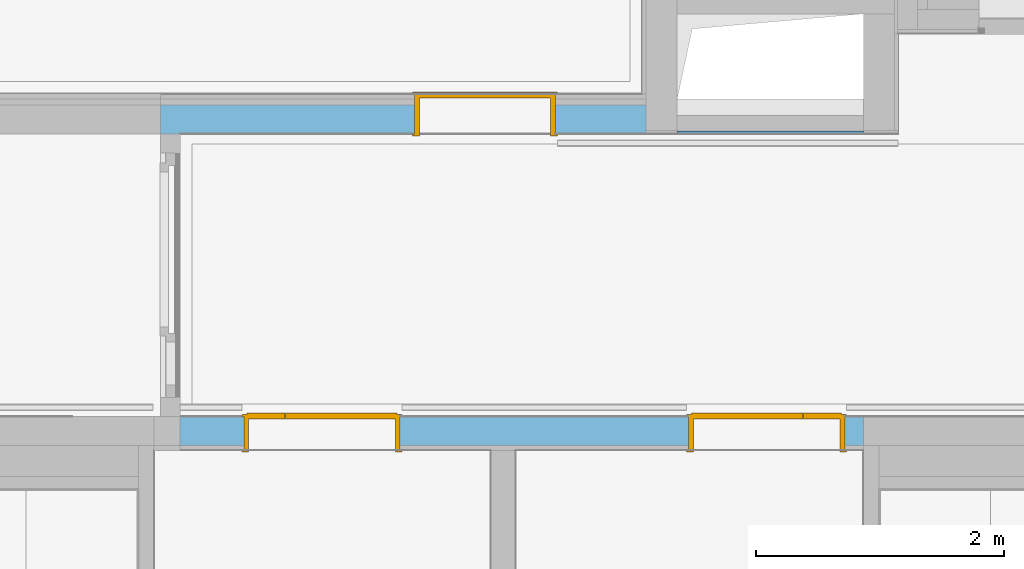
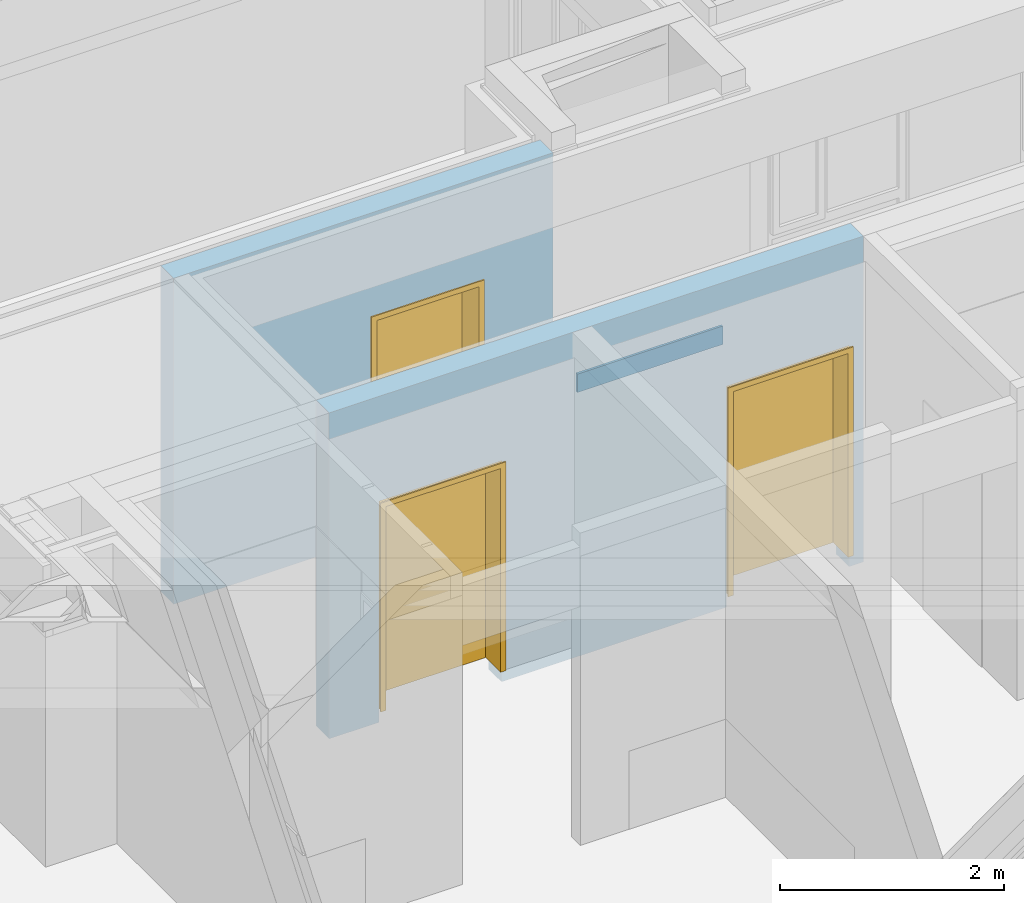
# One storey, part 115 of 222: 3 doors, 1 wall, 3 openings, plus 2 elements that do not belong to this part.
"""IFC4 building model written with IfcOpenShell, lengths in metres."""

from ifc_helpers import new_model, entity, si_unit, converted_unit, derived_unit, frame, frame_2d, origin, origin_with_axes, place, context, subcontext, project, spatial, polyline, rectangle, outline, extrude, faceted_brep, source, transform, mapped, material, type_object, element, fill, save


model = new_model("IFC4")

# Units and contexts
model_context = context("Model", 3, precision=1e-05, world=origin())
body_context = subcontext(model_context, "Body", "Model", "MODEL_VIEW")
ifc_project = project(units=[si_unit("LENGTHUNIT", "METRE"), si_unit("AREAUNIT", "SQUARE_METRE"), si_unit("VOLUMEUNIT", "CUBIC_METRE"), si_unit("MASSUNIT", "GRAM", prefix="KILO"), converted_unit("PLANEANGLEUNIT", "DEGREE", entity("IfcPlaneAngleMeasure", 0.0174532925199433), si_unit("PLANEANGLEUNIT", "RADIAN"), dimensions=[0, 0, 0, 0, 0, 0, 0]), derived_unit("THERMALTRANSMITTANCEUNIT", [(si_unit("POWERUNIT", "WATT"), 1), (si_unit("THERMODYNAMICTEMPERATUREUNIT", "KELVIN"), -1), (si_unit("LENGTHUNIT", "METRE"), -2)]), derived_unit("VOLUMETRICFLOWRATEUNIT", [(si_unit("LENGTHUNIT", "METRE"), 3), (converted_unit("TIMEUNIT", "hour", entity("IfcTimeMeasure", 3600.0), si_unit("TIMEUNIT", "SECOND"), dimensions=[0, 0, 1, 0, 0, 0, 0]), -1), (si_unit("LENGTHUNIT", "METRE"), -1)])], contexts=[model_context])

# Site, building, storey
site_placement = place(None, origin())
site = spatial("IfcSite", under=ifc_project, at=site_placement, Name="Psychiatrie Neubau Wunstorf", CompositionType="ELEMENT")
building_placement = place(site_placement, origin())
building = spatial("IfcBuilding", under=site, at=building_placement, Name="Neubau H2 Stationsgebäude", CompositionType="ELEMENT")
storey_placement = place(building_placement, frame((0.0, 0.0, 3.6)))
storey = spatial("IfcBuildingStorey", under=building, at=storey_placement, Name="H2 Ebene +1", CompositionType="ELEMENT", Elevation=3.6)

# Wall, opening, door
ifc_material_1 = material(Name="WI-HW 60")
wall_1_placement = place(storey_placement, frame((73.2399999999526, 7.60750000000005, 0.0), z_axis=(0.0, 0.0, 1.0), x_axis=(1.0, -2.32607340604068e-16, 0.0)))
wall_1 = element("IfcWall", 1, at=wall_1_placement, inside=storey, material=ifc_material_1, context=body_context, shape_type="SweptSolid", body=[
    extrude(rectangle(XDim=3.91000000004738, YDim=0.232, at=frame_2d((1.95500000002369, 0.116), x_axis=(1.0, 0.0))), origin_with_axes(), (0.0, 0.0, 1.0), 3.55),
])
opening_1_placement = place(wall_1_placement, frame((3.18000000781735, 0.231999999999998, 0.0), z_axis=(0.0, -1.0, 0.0), x_axis=(0.0, 0.0, 1.0)))
opening_1 = element("IfcOpeningElement", 2, at=opening_1_placement, cuts=wall_1, Name="Türöffnung", ObjectType="Opening", context=body_context, shape_type="SweptSolid", body=[
    extrude(outline(polyline([(2.41, 1.135), (2.41, 0.0), (0.0, 0.0), (0.0, 1.135), (2.41, 1.135)])), origin_with_axes(), (0.0, 0.0, 1.0), 0.232),
])
ifc_material_2 = material(Name="TI-1F-UZ-D")
door_type_1 = type_object("IfcDoorType", Name="SMT", OperationType="SINGLE_SWING_RIGHT", ParameterTakesPrecedence=False, PredefinedType="DOOR")
shared_shape_1 = source(origin_with_axes(), body_context, "Body", "Brep", [
    faceted_brep([(1.135, -0.015, 2.41), (1.135, -0.015, 0.15), (1.095, -0.015, 0.15), (1.095, -0.015, 2.41), (1.135, 0.337, 0.15), (1.135, 0.337, 2.41), (1.095, 0.337, 2.41), (1.095, 0.337, 0.15)], [[[0, 1, 2, 3]], [[4, 5, 6, 7]], [[1, 0, 5, 4]], [[2, 1, 4, 7]], [[3, 2, 7, 6]], [[0, 3, 6, 5]]], orient=[[False], [False], [False], [False], [False], [False]]),
    faceted_brep([(1.135, -0.015, 2.425), (1.15, -0.015, 2.425), (1.15, -0.015, 0.15), (1.135, -0.015, 0.15), (1.135, 0.0, 0.15), (1.15, 0.0, 0.15), (1.15, 0.0, 2.425), (1.135, 0.0, 2.425)], [[[0, 1, 2, 3]], [[4, 5, 6, 7]], [[3, 4, 7, 0]], [[2, 5, 4, 3]], [[1, 6, 5, 2]], [[0, 7, 6, 1]]], orient=[[False], [False], [False], [False], [False], [False]]),
    faceted_brep([(1.135, 0.322, 2.425), (1.15, 0.322, 2.425), (1.15, 0.322, 0.15), (1.135, 0.322, 0.15), (1.135, 0.337, 0.15), (1.15, 0.337, 0.15), (1.15, 0.337, 2.425), (1.135, 0.337, 2.425)], [[[0, 1, 2, 3]], [[4, 5, 6, 7]], [[3, 4, 7, 0]], [[2, 5, 4, 3]], [[1, 6, 5, 2]], [[0, 7, 6, 1]]], orient=[[False], [False], [False], [False], [False], [False]]),
    faceted_brep([(0.04, -0.015, 2.41), (0.04, -0.015, 0.15), (0.0, -0.015, 0.15), (0.0, -0.015, 2.41), (0.04, 0.337, 0.15), (0.04, 0.337, 2.41), (0.0, 0.337, 2.41), (0.0, 0.337, 0.15)], [[[0, 1, 2, 3]], [[4, 5, 6, 7]], [[1, 0, 5, 4]], [[2, 1, 4, 7]], [[3, 2, 7, 6]], [[0, 3, 6, 5]]], orient=[[False], [False], [False], [False], [False], [False]]),
    faceted_brep([(0.0, -0.015, 2.425), (0.0, -0.015, 0.15), (-0.015, -0.015, 0.15), (-0.015, -0.015, 2.425), (0.0, 0.0, 0.15), (0.0, 0.0, 2.425), (-0.015, 0.0, 2.425), (-0.015, 0.0, 0.15)], [[[0, 1, 2, 3]], [[4, 5, 6, 7]], [[1, 0, 5, 4]], [[2, 1, 4, 7]], [[3, 2, 7, 6]], [[0, 3, 6, 5]]], orient=[[False], [False], [False], [False], [False], [False]]),
    faceted_brep([(0.0, 0.322, 2.425), (0.0, 0.322, 0.15), (-0.015, 0.322, 0.15), (-0.015, 0.322, 2.425), (0.0, 0.337, 0.15), (0.0, 0.337, 2.425), (-0.015, 0.337, 2.425), (-0.015, 0.337, 0.15)], [[[0, 1, 2, 3]], [[4, 5, 6, 7]], [[1, 0, 5, 4]], [[2, 1, 4, 7]], [[3, 2, 7, 6]], [[0, 3, 6, 5]]], orient=[[False], [False], [False], [False], [False], [False]]),
    faceted_brep([(1.095, -0.015, 2.41), (1.095, -0.015, 2.37), (0.04, -0.015, 2.37), (0.04, -0.015, 2.41), (1.095, 0.337, 2.37), (1.095, 0.337, 2.41), (0.04, 0.337, 2.41), (0.04, 0.337, 2.37)], [[[0, 1, 2, 3]], [[4, 5, 6, 7]], [[1, 0, 5, 4]], [[2, 1, 4, 7]], [[3, 2, 7, 6]], [[0, 3, 6, 5]]], orient=[[False], [False], [False], [False], [False], [False]]),
    faceted_brep([(1.135, -0.015, 2.425), (1.135, -0.015, 2.41), (0.0, -0.015, 2.41), (0.0, -0.015, 2.425), (1.135, 0.0, 2.41), (1.135, 0.0, 2.425), (0.0, 0.0, 2.425), (0.0, 0.0, 2.41)], [[[0, 1, 2, 3]], [[4, 5, 6, 7]], [[1, 0, 5, 4]], [[2, 1, 4, 7]], [[3, 2, 7, 6]], [[0, 3, 6, 5]]], orient=[[False], [False], [False], [False], [False], [False]]),
    faceted_brep([(1.135, 0.322, 2.425), (1.135, 0.322, 2.41), (0.0, 0.322, 2.41), (0.0, 0.322, 2.425), (1.135, 0.337, 2.41), (1.135, 0.337, 2.425), (0.0, 0.337, 2.425), (0.0, 0.337, 2.41)], [[[0, 1, 2, 3]], [[4, 5, 6, 7]], [[1, 0, 5, 4]], [[2, 1, 4, 7]], [[3, 2, 7, 6]], [[0, 3, 6, 5]]], orient=[[False], [False], [False], [False], [False], [False]]),
    faceted_brep([(1.11, 0.288, 2.385), (1.11, 0.288, 0.15), (0.025, 0.288, 0.15), (0.025, 0.288, 2.385), (1.11, 0.338, 0.15), (1.11, 0.338, 2.385), (0.025, 0.338, 2.385), (0.025, 0.338, 0.15)], [[[0, 1, 2, 3]], [[4, 5, 6, 7]], [[1, 0, 5, 4]], [[2, 1, 4, 7]], [[3, 2, 7, 6]], [[0, 3, 6, 5]]], orient=[[False], [False], [False], [False], [False], [False]]),
])
door_1_placement = place(opening_1_placement, frame((0.0, 1.135, 0.232000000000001), z_axis=(1.0, 0.0, 0.0), x_axis=(0.0, -1.0, -2.32607340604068e-16)))
door_1 = element("IfcDoor", 3, at=door_1_placement, inside=storey, type_object=door_type_1, material=ifc_material_2, Name="SMT", OverallHeight=2.41, OverallWidth=1.135, context=body_context, shape_type="MappedRepresentation", body=[
    mapped(shared_shape_1, transform((0.0, 0.0, 0.0), x_axis=(1.0, 0.0, 0.0), y_axis=(0.0, 1.0, 0.0), z_axis=(0.0, 0.0, 1.0), scale=1.0)),
])
fill(opening_1, door_1)

# Wall, openings, doors
ifc_material_3 = material(Name="WI-HW 60")
wall_2_placement = place(storey_placement, frame((78.9, 5.33250000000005, 0.0), z_axis=(0.0, 0.0, 1.0), x_axis=(-1.0, 0.0, 0.0)))
wall_2 = element("IfcWall", 4, at=wall_2_placement, inside=storey, material=ifc_material_3, context=body_context, shape_type="SweptSolid", body=[
    extrude(rectangle(XDim=5.50500000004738, YDim=0.232, at=frame_2d((2.75250000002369, 0.116), x_axis=(1.0, 0.0))), origin_with_axes(), (0.0, 0.0, 1.0), 3.55),
])
opening_2_placement = place(wall_2_placement, frame((0.15, 0.0, 0.0), z_axis=(0.0, 1.0, 0.0), x_axis=(0.0, 0.0, 1.0)))
opening_2 = element("IfcOpeningElement", 5, at=opening_2_placement, cuts=wall_2, Name="Türöffnung", ObjectType="Opening", context=body_context, shape_type="SweptSolid", body=[
    extrude(outline(polyline([(2.41, 1.26), (2.41, 0.0), (0.0, 0.0), (0.0, 1.26), (2.41, 1.26)])), origin_with_axes(), (0.0, 0.0, 1.0), 0.232),
])
opening_3_placement = place(wall_2_placement, frame((3.73, 0.0, 0.0), z_axis=(0.0, 1.0, 0.0), x_axis=(0.0, 0.0, 1.0)))
opening_3 = element("IfcOpeningElement", 6, at=opening_3_placement, cuts=wall_2, Name="Türöffnung", ObjectType="Opening", context=body_context, shape_type="SweptSolid", body=[
    extrude(outline(polyline([(2.41, 1.26), (2.41, 0.0), (0.0, 0.0), (0.0, 1.26), (2.41, 1.26)])), origin_with_axes(), (0.0, 0.0, 1.0), 0.232),
])
ifc_material_4 = material(Name="TI-2F-UZ-D")
door_type_2 = type_object("IfcDoorType", Name="SMT", OperationType="DOUBLE_DOOR_SINGLE_SWING", ParameterTakesPrecedence=False, PredefinedType="DOOR")
shared_shape_2 = source(origin_with_axes(), body_context, "Body", "Brep", [
    faceted_brep([(0.0, -0.0150000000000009, 2.41), (0.04, -0.0150000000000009, 2.41), (0.04, -0.0150000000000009, 0.15), (0.0, -0.0150000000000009, 0.15), (0.0, 0.287000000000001, 0.15), (0.04, 0.287000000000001, 0.15), (0.04, 0.287000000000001, 2.41), (0.0, 0.287000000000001, 2.41)], [[[0, 1, 2, 3]], [[4, 5, 6, 7]], [[3, 4, 7, 0]], [[2, 5, 4, 3]], [[1, 6, 5, 2]], [[0, 7, 6, 1]]], orient=[[False], [False], [False], [False], [False], [False]]),
    faceted_brep([(0.0, -0.0150000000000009, 2.425), (0.0, -0.0150000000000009, 0.15), (-0.015, -0.0150000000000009, 0.15), (-0.015, -0.0150000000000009, 2.425), (0.0, 0.0, 0.15), (0.0, 0.0, 2.425), (-0.015, 0.0, 2.425), (-0.015, 0.0, 0.15)], [[[0, 1, 2, 3]], [[4, 5, 6, 7]], [[1, 0, 5, 4]], [[2, 1, 4, 7]], [[3, 2, 7, 6]], [[0, 3, 6, 5]]], orient=[[False], [False], [False], [False], [False], [False]]),
    faceted_brep([(0.0, 0.272000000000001, 2.425), (0.0, 0.272000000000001, 0.15), (-0.015, 0.272000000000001, 0.15), (-0.015, 0.272000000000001, 2.425), (0.0, 0.287000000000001, 0.15), (0.0, 0.287000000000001, 2.425), (-0.015, 0.287000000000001, 2.425), (-0.015, 0.287000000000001, 0.15)], [[[0, 1, 2, 3]], [[4, 5, 6, 7]], [[1, 0, 5, 4]], [[2, 1, 4, 7]], [[3, 2, 7, 6]], [[0, 3, 6, 5]]], orient=[[False], [False], [False], [False], [False], [False]]),
    faceted_brep([(1.22, -0.0150000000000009, 2.41), (1.26, -0.0150000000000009, 2.41), (1.26, -0.0150000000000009, 0.15), (1.22, -0.0150000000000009, 0.15), (1.22, 0.287000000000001, 0.15), (1.26, 0.287000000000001, 0.15), (1.26, 0.287000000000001, 2.41), (1.22, 0.287000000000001, 2.41)], [[[0, 1, 2, 3]], [[4, 5, 6, 7]], [[3, 4, 7, 0]], [[2, 5, 4, 3]], [[1, 6, 5, 2]], [[0, 7, 6, 1]]], orient=[[False], [False], [False], [False], [False], [False]]),
    faceted_brep([(1.26, -0.0150000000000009, 2.425), (1.275, -0.0150000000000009, 2.425), (1.275, -0.0150000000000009, 0.15), (1.26, -0.0150000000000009, 0.15), (1.26, 0.0, 0.15), (1.275, 0.0, 0.15), (1.275, 0.0, 2.425), (1.26, 0.0, 2.425)], [[[0, 1, 2, 3]], [[4, 5, 6, 7]], [[3, 4, 7, 0]], [[2, 5, 4, 3]], [[1, 6, 5, 2]], [[0, 7, 6, 1]]], orient=[[False], [False], [False], [False], [False], [False]]),
    faceted_brep([(1.26, 0.272, 2.425), (1.275, 0.272, 2.425), (1.275, 0.272000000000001, 0.15), (1.26, 0.272000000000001, 0.15), (1.26, 0.287000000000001, 0.15), (1.275, 0.287000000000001, 0.15), (1.275, 0.287000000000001, 2.425), (1.26, 0.287000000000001, 2.425)], [[[0, 1, 2, 3]], [[4, 5, 6, 7]], [[3, 4, 7, 0]], [[2, 5, 4, 3]], [[1, 6, 5, 2]], [[0, 7, 6, 1]]], orient=[[False], [False], [False], [False], [False], [False]]),
    faceted_brep([(0.04, -0.0150000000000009, 2.41), (1.22, -0.0150000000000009, 2.41), (1.22, -0.0150000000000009, 2.37), (0.04, -0.0150000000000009, 2.37), (0.04, 0.287000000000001, 2.37), (1.22, 0.287000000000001, 2.37), (1.22, 0.287000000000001, 2.41), (0.04, 0.287000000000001, 2.41)], [[[0, 1, 2, 3]], [[4, 5, 6, 7]], [[3, 4, 7, 0]], [[2, 5, 4, 3]], [[1, 6, 5, 2]], [[0, 7, 6, 1]]], orient=[[False], [False], [False], [False], [False], [False]]),
    faceted_brep([(0.0, -0.0150000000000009, 2.425), (1.26, -0.0150000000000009, 2.425), (1.26, -0.0150000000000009, 2.41), (0.0, -0.0150000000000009, 2.41), (0.0, 0.0, 2.41), (1.26, 0.0, 2.41), (1.26, 0.0, 2.425), (0.0, 0.0, 2.425)], [[[0, 1, 2, 3]], [[4, 5, 6, 7]], [[3, 4, 7, 0]], [[2, 5, 4, 3]], [[1, 6, 5, 2]], [[0, 7, 6, 1]]], orient=[[False], [False], [False], [False], [False], [False]]),
    faceted_brep([(0.0, 0.272000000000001, 2.425), (1.26, 0.272, 2.425), (1.26, 0.272, 2.41), (0.0, 0.272000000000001, 2.41), (0.0, 0.287000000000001, 2.41), (1.26, 0.287000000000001, 2.41), (1.26, 0.287000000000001, 2.425), (0.0, 0.287000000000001, 2.425)], [[[0, 1, 2, 3]], [[4, 5, 6, 7]], [[3, 4, 7, 0]], [[2, 5, 4, 3]], [[1, 6, 5, 2]], [[0, 7, 6, 1]]], orient=[[False], [False], [False], [False], [False], [False]]),
    faceted_brep([(0.025, 0.252000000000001, 2.385), (0.925, 0.252, 2.385), (0.925, 0.252000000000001, 0.15), (0.025, 0.252000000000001, 0.15), (0.025, 0.302000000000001, 0.15), (0.925, 0.302000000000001, 0.15), (0.925, 0.302000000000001, 2.385), (0.025, 0.302000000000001, 2.385)], [[[0, 1, 2, 3]], [[4, 5, 6, 7]], [[3, 4, 7, 0]], [[2, 5, 4, 3]], [[1, 6, 5, 2]], [[0, 7, 6, 1]]], orient=[[False], [False], [False], [False], [False], [False]]),
    faceted_brep([(0.926, 0.252, 2.385), (1.235, 0.252, 2.385), (1.235, 0.252000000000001, 0.15), (0.926, 0.252000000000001, 0.15), (0.926, 0.302000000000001, 0.15), (1.235, 0.302000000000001, 0.15), (1.235, 0.302000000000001, 2.385), (0.926, 0.302000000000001, 2.385)], [[[0, 1, 2, 3]], [[4, 5, 6, 7]], [[3, 4, 7, 0]], [[2, 5, 4, 3]], [[1, 6, 5, 2]], [[0, 7, 6, 1]]], orient=[[False], [False], [False], [False], [False], [False]]),
])
door_2_placement = place(opening_2_placement, frame((0.0, 1.26, 0.272), z_axis=(1.0, 0.0, 0.0), x_axis=(0.0, -1.0, 0.0)))
door_2 = element("IfcDoor", 7, at=door_2_placement, inside=storey, type_object=door_type_2, material=ifc_material_4, Name="SMT", OverallHeight=2.41, OverallWidth=1.26, context=body_context, shape_type="MappedRepresentation", body=[
    mapped(shared_shape_2, transform((0.0, 0.0, 0.0), x_axis=(1.0, 0.0, 0.0), y_axis=(0.0, 1.0, 0.0), z_axis=(0.0, 0.0, 1.0), scale=1.0)),
])
fill(opening_2, door_2)
ifc_material_5 = material(Name="TI-2F-UZ-D")
door_type_3 = type_object("IfcDoorType", Name="SMT", OperationType="DOUBLE_DOOR_SINGLE_SWING", ParameterTakesPrecedence=False, PredefinedType="DOOR")
shared_shape_3 = source(origin_with_axes(), body_context, "Body", "Brep", [
    faceted_brep([(1.26, -0.015, 2.41), (1.26, -0.015, 0.15), (1.22, -0.015, 0.15), (1.22, -0.015, 2.41), (1.26, 0.287, 0.15), (1.26, 0.287, 2.41), (1.22, 0.287, 2.41), (1.22, 0.287, 0.15)], [[[0, 1, 2, 3]], [[4, 5, 6, 7]], [[1, 0, 5, 4]], [[2, 1, 4, 7]], [[3, 2, 7, 6]], [[0, 3, 6, 5]]], orient=[[False], [False], [False], [False], [False], [False]]),
    faceted_brep([(1.26, -0.015, 2.425), (1.275, -0.015, 2.425), (1.275, -0.015, 0.15), (1.26, -0.015, 0.15), (1.26, 0.0, 0.15), (1.275, 0.0, 0.15), (1.275, 0.0, 2.425), (1.26, 0.0, 2.425)], [[[0, 1, 2, 3]], [[4, 5, 6, 7]], [[3, 4, 7, 0]], [[2, 5, 4, 3]], [[1, 6, 5, 2]], [[0, 7, 6, 1]]], orient=[[False], [False], [False], [False], [False], [False]]),
    faceted_brep([(1.26, 0.272, 2.425), (1.275, 0.272, 2.425), (1.275, 0.272, 0.15), (1.26, 0.272, 0.15), (1.26, 0.287, 0.15), (1.275, 0.287, 0.15), (1.275, 0.287, 2.425), (1.26, 0.287, 2.425)], [[[0, 1, 2, 3]], [[4, 5, 6, 7]], [[3, 4, 7, 0]], [[2, 5, 4, 3]], [[1, 6, 5, 2]], [[0, 7, 6, 1]]], orient=[[False], [False], [False], [False], [False], [False]]),
    faceted_brep([(0.04, -0.015, 2.41), (0.04, -0.015, 0.15), (0.0, -0.015, 0.15), (0.0, -0.015, 2.41), (0.04, 0.287, 0.15), (0.04, 0.287, 2.41), (0.0, 0.287, 2.41), (0.0, 0.287, 0.15)], [[[0, 1, 2, 3]], [[4, 5, 6, 7]], [[1, 0, 5, 4]], [[2, 1, 4, 7]], [[3, 2, 7, 6]], [[0, 3, 6, 5]]], orient=[[False], [False], [False], [False], [False], [False]]),
    faceted_brep([(0.0, -0.015, 2.425), (0.0, -0.015, 0.15), (-0.015, -0.015, 0.15), (-0.015, -0.015, 2.425), (0.0, 0.0, 0.15), (0.0, 0.0, 2.425), (-0.015, 0.0, 2.425), (-0.015, 0.0, 0.15)], [[[0, 1, 2, 3]], [[4, 5, 6, 7]], [[1, 0, 5, 4]], [[2, 1, 4, 7]], [[3, 2, 7, 6]], [[0, 3, 6, 5]]], orient=[[False], [False], [False], [False], [False], [False]]),
    faceted_brep([(0.0, 0.272, 2.425), (0.0, 0.272, 0.15), (-0.015, 0.272, 0.15), (-0.015, 0.272, 2.425), (0.0, 0.287, 0.15), (0.0, 0.287, 2.425), (-0.015, 0.287, 2.425), (-0.015, 0.287, 0.15)], [[[0, 1, 2, 3]], [[4, 5, 6, 7]], [[1, 0, 5, 4]], [[2, 1, 4, 7]], [[3, 2, 7, 6]], [[0, 3, 6, 5]]], orient=[[False], [False], [False], [False], [False], [False]]),
    faceted_brep([(1.22, -0.015, 2.41), (1.22, -0.015, 2.37), (0.04, -0.015, 2.37), (0.04, -0.015, 2.41), (1.22, 0.287, 2.37), (1.22, 0.287, 2.41), (0.04, 0.287, 2.41), (0.04, 0.287, 2.37)], [[[0, 1, 2, 3]], [[4, 5, 6, 7]], [[1, 0, 5, 4]], [[2, 1, 4, 7]], [[3, 2, 7, 6]], [[0, 3, 6, 5]]], orient=[[False], [False], [False], [False], [False], [False]]),
    faceted_brep([(1.26, -0.015, 2.425), (1.26, -0.015, 2.41), (0.0, -0.015, 2.41), (0.0, -0.015, 2.425), (1.26, 0.0, 2.41), (1.26, 0.0, 2.425), (0.0, 0.0, 2.425), (0.0, 0.0, 2.41)], [[[0, 1, 2, 3]], [[4, 5, 6, 7]], [[1, 0, 5, 4]], [[2, 1, 4, 7]], [[3, 2, 7, 6]], [[0, 3, 6, 5]]], orient=[[False], [False], [False], [False], [False], [False]]),
    faceted_brep([(1.26, 0.272, 2.425), (1.26, 0.272, 2.41), (0.0, 0.272, 2.41), (0.0, 0.272, 2.425), (1.26, 0.287, 2.41), (1.26, 0.287, 2.425), (0.0, 0.287, 2.425), (0.0, 0.287, 2.41)], [[[0, 1, 2, 3]], [[4, 5, 6, 7]], [[1, 0, 5, 4]], [[2, 1, 4, 7]], [[3, 2, 7, 6]], [[0, 3, 6, 5]]], orient=[[False], [False], [False], [False], [False], [False]]),
    faceted_brep([(1.235, 0.252, 2.385), (1.235, 0.252, 0.15), (0.335, 0.252, 0.15), (0.335, 0.252, 2.385), (1.235, 0.302, 0.15), (1.235, 0.302, 2.385), (0.335, 0.302, 2.385), (0.335, 0.302, 0.15)], [[[0, 1, 2, 3]], [[4, 5, 6, 7]], [[1, 0, 5, 4]], [[2, 1, 4, 7]], [[3, 2, 7, 6]], [[0, 3, 6, 5]]], orient=[[False], [False], [False], [False], [False], [False]]),
    faceted_brep([(0.334, 0.252, 2.385), (0.334, 0.252, 0.15), (0.025, 0.252, 0.15), (0.025, 0.252, 2.385), (0.334, 0.302, 0.15), (0.334, 0.302, 2.385), (0.025, 0.302, 2.385), (0.025, 0.302, 0.15)], [[[0, 1, 2, 3]], [[4, 5, 6, 7]], [[1, 0, 5, 4]], [[2, 1, 4, 7]], [[3, 2, 7, 6]], [[0, 3, 6, 5]]], orient=[[False], [False], [False], [False], [False], [False]]),
])
door_3_placement = place(opening_3_placement, frame((0.0, 1.26, 0.272), z_axis=(1.0, 0.0, 0.0), x_axis=(0.0, -1.0, 0.0)))
door_3 = element("IfcDoor", 8, at=door_3_placement, inside=storey, type_object=door_type_3, material=ifc_material_5, Name="SMT", OverallHeight=2.41, OverallWidth=1.26, context=body_context, shape_type="MappedRepresentation", body=[
    mapped(shared_shape_3, transform((0.0, 0.0, 0.0), x_axis=(1.0, 0.0, 0.0), y_axis=(0.0, 1.0, 0.0), z_axis=(0.0, 0.0, 1.0), scale=1.0)),
])
fill(opening_3, door_3)

# Wall
wall_3_placement = place(storey_placement, frame((77.4, 7.60750000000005, 0.85)))
element("IfcWall", 9, at=wall_3_placement, inside=storey, Name="WV 1.1", context=body_context, shape_type="Brep", body=[
    faceted_brep([(0.0, 0.025, 0.0), (0.0, 0.0, 0.0), (1.5, 0.0, 0.0), (1.5, 0.025, 0.0), (0.0, 0.0, 0.2), (0.0, 0.025, 0.2), (1.5, 0.025, 0.2), (1.5, 0.0, 0.2)], [[[0, 1, 2, 3]], [[4, 5, 6, 7]], [[1, 0, 5, 4]], [[2, 1, 4, 7]], [[3, 2, 7, 6]], [[0, 3, 6, 5]]], orient=[[False], [False], [False], [False], [False], [False]]),
])

save(model, "model.ifc")
